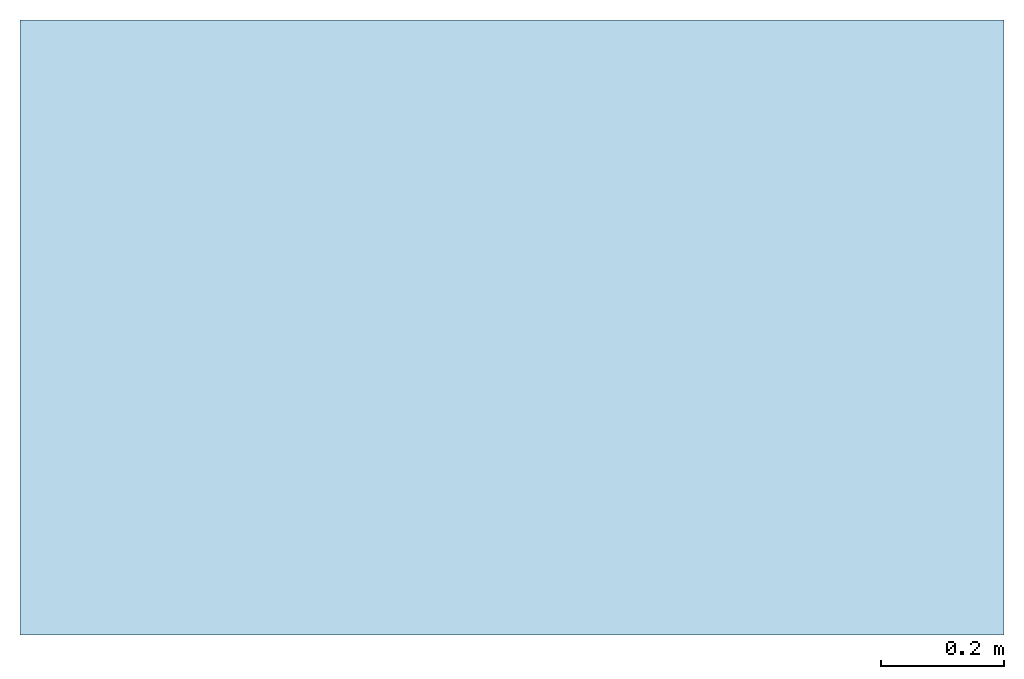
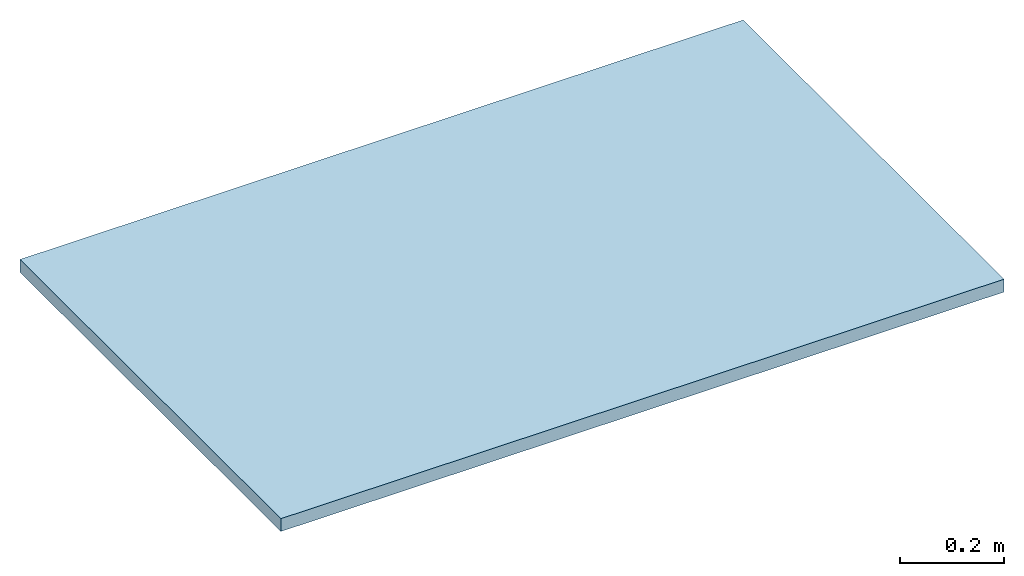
# One storey: 1 slab.
"""IFC2X3 building model written with IfcOpenShell, lengths in millimetres."""

from ifc_helpers import new_model, entity, si_unit, converted_unit, derived_unit, direction, frame, frame_2d, origin, place, context, subcontext, project, spatial, rectangle, extrude, material, layer, layer_set, layer_usage, element, save


model = new_model("IFC2X3")

# Units and contexts
model_context = context("Model", 3, precision=0.01, world=origin(), true_north=direction((6.12303176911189e-17, 1.0)))
context_of_model = context(None, 3, precision=0.01, world=origin(), true_north=direction((6.12303176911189e-17, 1.0)))
body_context = subcontext(model_context, "Body", "Model", "MODEL_VIEW")
ifc_project = project(units=[si_unit("LENGTHUNIT", "METRE", prefix="MILLI"), si_unit("AREAUNIT", "SQUARE_METRE"), si_unit("VOLUMEUNIT", "CUBIC_METRE"), converted_unit("PLANEANGLEUNIT", "DEGREE", entity("IfcRatioMeasure", 0.0174532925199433), si_unit("PLANEANGLEUNIT", "RADIAN"), dimensions=[0, 0, 0, 0, 0, 0, 0]), si_unit("MASSUNIT", "GRAM", prefix="KILO"), si_unit("TIMEUNIT", "SECOND"), si_unit("FREQUENCYUNIT", "HERTZ"), si_unit("THERMODYNAMICTEMPERATUREUNIT", "DEGREE_CELSIUS"), derived_unit("THERMALTRANSMITTANCEUNIT", [(si_unit("MASSUNIT", "GRAM", prefix="KILO"), 1), (si_unit("THERMODYNAMICTEMPERATUREUNIT", "KELVIN"), -1), (si_unit("TIMEUNIT", "SECOND"), -3)]), derived_unit("VOLUMETRICFLOWRATEUNIT", [(si_unit("LENGTHUNIT", "METRE"), 3), (si_unit("TIMEUNIT", "SECOND"), -1)]), si_unit("ELECTRICCURRENTUNIT", "AMPERE"), si_unit("ELECTRICVOLTAGEUNIT", "VOLT"), si_unit("POWERUNIT", "WATT"), si_unit("FORCEUNIT", "NEWTON", prefix="KILO"), si_unit("ILLUMINANCEUNIT", "LUX"), si_unit("LUMINOUSFLUXUNIT", "LUMEN"), si_unit("LUMINOUSINTENSITYUNIT", "CANDELA"), si_unit("PRESSUREUNIT", "PASCAL")], contexts=[model_context, context_of_model])

# Site, building, storey
site_placement = place(None, origin())
site = spatial("IfcSite", under=ifc_project, at=site_placement, Name="Default", CompositionType="ELEMENT")
building_placement = place(site_placement, origin())
building = spatial("IfcBuilding", under=site, at=building_placement, CompositionType="ELEMENT")
storey_placement = place(building_placement, origin())
storey = spatial("IfcBuildingStorey", under=building, at=storey_placement, Name="Уровень 1", CompositionType="ELEMENT", Elevation=0.0)

# Slab
ifc_material = material(Name="ROLS_ISOMARKET_Плита ENERGOFLOOR TACKER 30/1-1,6 DES-sg")
ifc_layer = layer(ifc_material, 30.0)
ifc_layer_set = layer_set([ifc_layer], Name="Перекрытие:ROLS_ISOMARKET_Плита ENERGOFLOOR TACKER 30/1-1,6 DES-sg")
ifc_layer_usage = layer_usage(ifc_layer_set, "AXIS3", "POSITIVE", 0.0)
slab_placement = place(storey_placement, origin())
element("IfcSlab", 1, at=slab_placement, inside=storey, material=ifc_layer_usage, Name="Перекрытие:ROLS_ISOMARKET_Плита ENERGOFLOOR TACKER 30/1-1,6 DES-sg", ObjectType="Перекрытие:ROLS_ISOMARKET_Плита ENERGOFLOOR TACKER 30/1-1,6 DES-sg", PredefinedType="FLOOR", context=body_context, shape_type="SweptSolid", body=[
    extrude(rectangle(XDim=1000.0, YDim=1600.0, at=frame_2d((0.0, -1.08002495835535e-12), x_axis=(1.0, 0.0))), frame((-12115.4270794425, 9613.94119007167, 0.0), z_axis=(0.0, 0.0, -1.0), x_axis=(0.0, 1.0, 0.0)), (0.0, 0.0, 1.0), 30.0),
])

save(model, "model.ifc")
